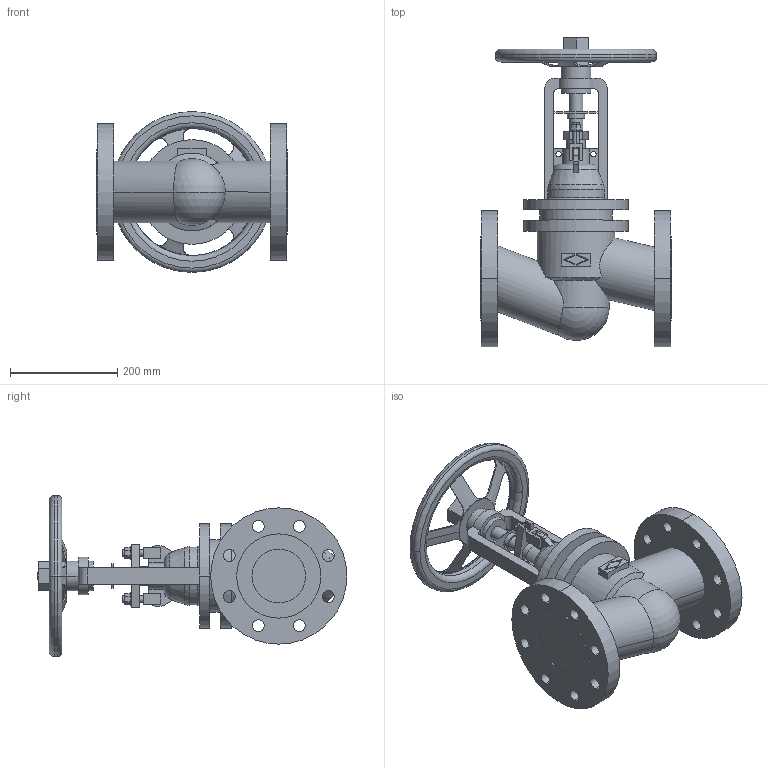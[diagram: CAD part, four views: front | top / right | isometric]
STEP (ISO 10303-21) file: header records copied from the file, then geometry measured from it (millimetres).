
FILE_DESCRIPTION(('OneSpaceDesigner STEP Export'),'2;1');
FILE_NAME('c000004200.stp','2010-04-30T 8:37:53',(''),(''),'OneSpace Designer STEP processor for AP214 (Solid Model)','OneSpace Modeling 15.50B 03-Nov-2007 (C) CoCreate Software GmbH','');
FILE_SCHEMA(('AUTOMOTIVE_DESIGN { 1 0 10303 214 1 1 1 1 }'));
Length unit declared in the file: millimetre
Products named in the file (1): 1
Bounding box: 356 x 577.7 x 300 mm (x, y, z)
Volume: 10740153.1 mm3; surface area: 735791.3 mm2
Topology: 1 solids, 1 shells, 331 faces, 915 edges, 601 vertices
Faces by surface type: cylinder 150, plane 145, torus 22, cone 12, sphere 2
Entity records: 13798 total; most frequent: CARTESIAN_POINT 3255, ORIENTED_EDGE 1810, DIRECTION 1401, EDGE_CURVE 905, VERTEX_POINT 597, AXIS2_PLACEMENT_3D 485, VECTOR 431, LINE 431
